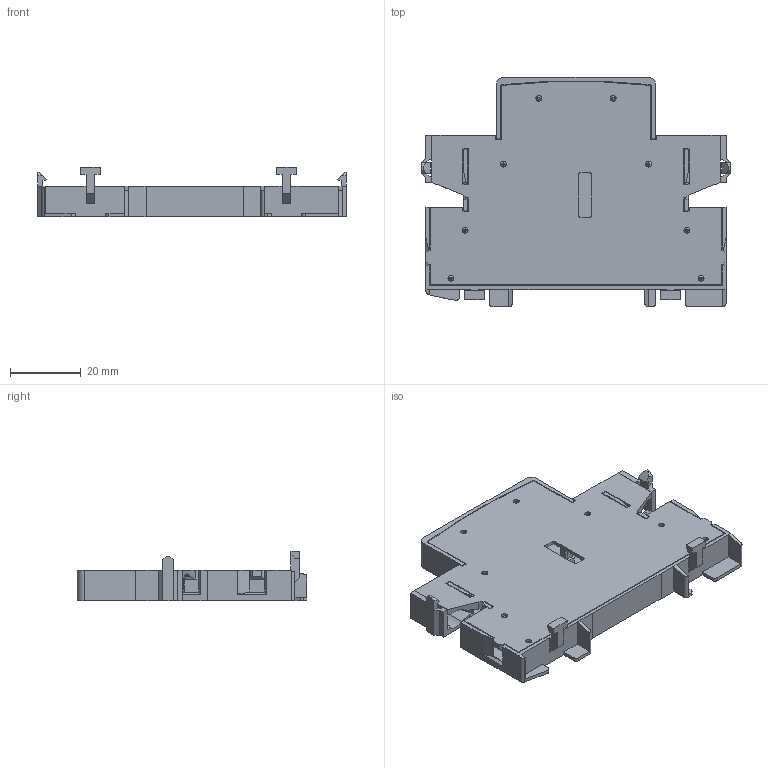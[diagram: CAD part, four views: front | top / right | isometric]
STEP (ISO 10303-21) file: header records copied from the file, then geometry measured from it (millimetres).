
FILE_DESCRIPTION (( 'STEP AP214' ), '1' );
FILE_NAME ('購.STEP', '2013-10-17T10:45:36', ( '1' ), ( 'keaz' ), 'SwSTEP 2.0', 'SolidWorks 2007', '' );
FILE_SCHEMA (( 'AUTOMOTIVE_DESIGN' ));
Length unit declared in the file: millimetre
Products named in the file (3): 47259_Ïî óìîë÷àíèþ; 47258_Ïî óìîë÷àíèþ; 購
Assembly tree (2 placements, depth 2):
  購
    47259_Ïî óìîë÷àíèþ
    47258_Ïî óìîë÷àíèþ
Bounding box: 87.4 x 65 x 14.1 mm (x, y, z)
Volume: 13369.4 mm3; surface area: 26100.4 mm2
Topology: 2 solids, 2 shells, 751 faces, 2026 edges, 1329 vertices
Faces by surface type: plane 588, cylinder 82, cone 81
Entity records: 31672 total; most frequent: CARTESIAN_POINT 4135, ORIENTED_EDGE 4052, DIRECTION 3839, EDGE_CURVE 2026, LINE 1709, VECTOR 1709, VERTEX_POINT 1329, AXIS2_PLACEMENT_3D 1065
